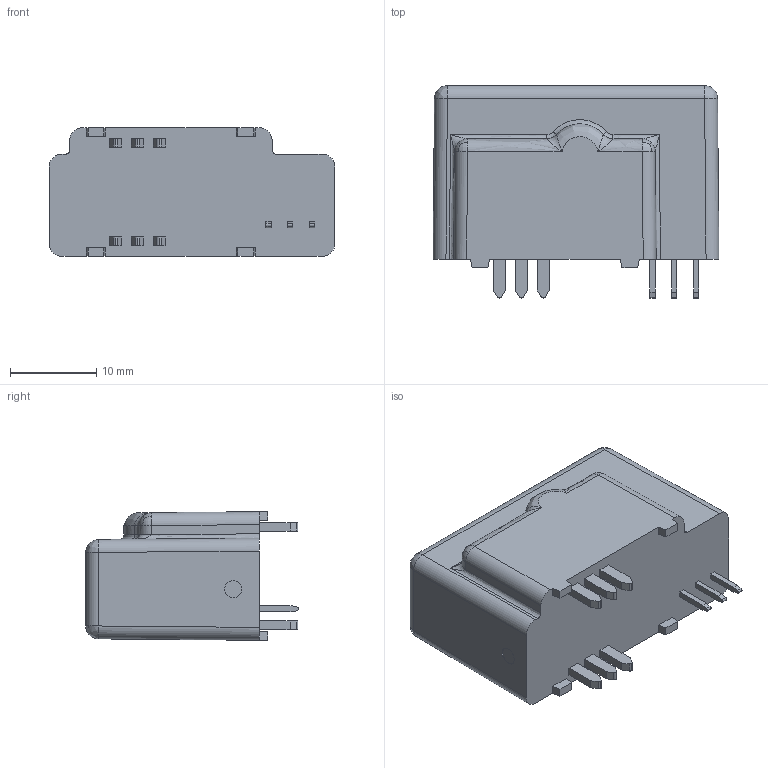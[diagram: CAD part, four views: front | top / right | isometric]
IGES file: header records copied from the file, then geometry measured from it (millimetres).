
Start section: Elysium IGES Interface
Global section: file name: C:\Users\smo\Desktop\BBOX_LH\BBOX_LH-100.igs; native system: PTC Creo Elements/Direct Modeling 19.0B  21-Mar-2015; preprocessor: Creo Element/Direct IGES_3D V2.2; author: Unknown; organization: Unknown; date: 20160718.102040; units: millimetre
Bounding box: 33.2 x 24.7 x 14.95 mm (x, y, z)
Volume: 8743.4 mm3; surface area: 2844.5 mm2
Topology: 1 solids, 1 shells, 265 faces, 691 edges, 444 vertices
Faces by surface type: bspline 265
